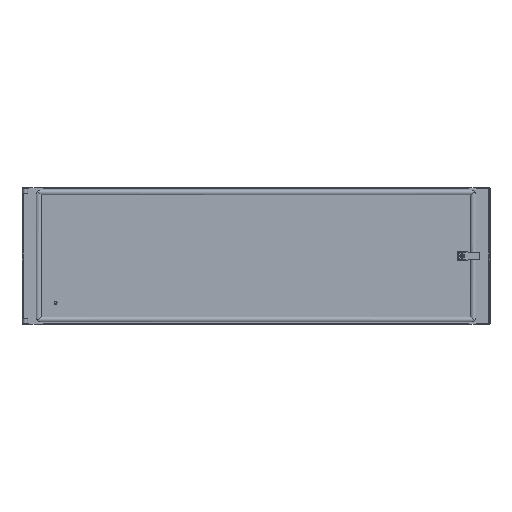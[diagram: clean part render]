
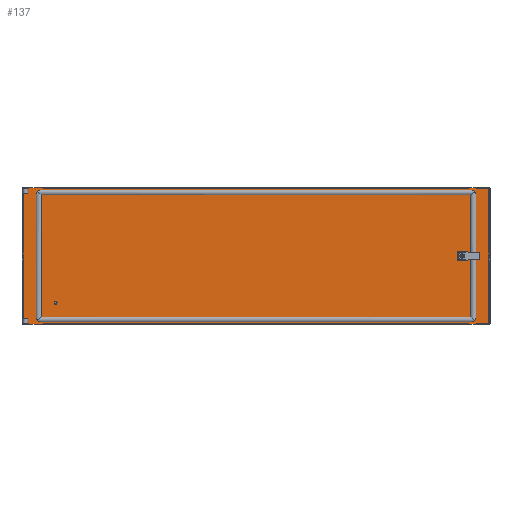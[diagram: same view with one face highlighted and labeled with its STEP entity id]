
A CAD part, top view. The second image highlights one B-rep face of the part: STEP entity #137.
In plain terms, the highlighted planar face has unit normal (0, 0, 1).
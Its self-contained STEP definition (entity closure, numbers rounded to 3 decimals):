
#137=ADVANCED_FACE('',(#702,#704,#706),#708,.T.);
#702=FACE_BOUND('',#703,.T.);
#703=EDGE_LOOP('',(#3435,#3436,#3437,#3438,#3439,#3440,#3441,#3442,#3443,#3444,#3445,
#3446,#3447,#3448,#3449,#3450,#3451,#3452,#3453,#3454,#3455,#3456,#3457,#3458,#3459,
#3460,#3461,#3462));
#704=FACE_BOUND('',#705,.T.);
#705=EDGE_LOOP('',(#3463));
#706=FACE_BOUND('',#707,.T.);
#707=EDGE_LOOP('',(#3464,#3465,#3466,#3467));
#708=PLANE('',#709);
#709=AXIS2_PLACEMENT_3D('',#710,#711,#712);
#710=CARTESIAN_POINT('',(0.,0.,2.));
#711=DIRECTION('',(0.,0.,1.));
#712=DIRECTION('',(1.,0.,0.));
#3435=ORIENTED_EDGE('',*,*,#5245,.F.);
#3436=ORIENTED_EDGE('',*,*,#5225,.F.);
#3437=ORIENTED_EDGE('',*,*,#5152,.F.);
#3438=ORIENTED_EDGE('',*,*,#5246,.F.);
#3439=ORIENTED_EDGE('',*,*,#5247,.F.);
#3440=ORIENTED_EDGE('',*,*,#5248,.F.);
#3441=ORIENTED_EDGE('',*,*,#5249,.F.);
#3442=ORIENTED_EDGE('',*,*,#5221,.F.);
#3443=ORIENTED_EDGE('',*,*,#5156,.F.);
#3444=ORIENTED_EDGE('',*,*,#5250,.F.);
#3445=ORIENTED_EDGE('',*,*,#5251,.F.);
#3446=ORIENTED_EDGE('',*,*,#5252,.F.);
#3447=ORIENTED_EDGE('',*,*,#5253,.F.);
#3448=ORIENTED_EDGE('',*,*,#5254,.F.);
#3449=ORIENTED_EDGE('',*,*,#5255,.F.);
#3450=ORIENTED_EDGE('',*,*,#5176,.F.);
#3451=ORIENTED_EDGE('',*,*,#5149,.F.);
#3452=ORIENTED_EDGE('',*,*,#5256,.T.);
#3453=ORIENTED_EDGE('',*,*,#5257,.T.);
#3454=ORIENTED_EDGE('',*,*,#5258,.T.);
#3455=ORIENTED_EDGE('',*,*,#5143,.F.);
#3456=ORIENTED_EDGE('',*,*,#5174,.F.);
#3457=ORIENTED_EDGE('',*,*,#5141,.F.);
#3458=ORIENTED_EDGE('',*,*,#5259,.T.);
#3459=ORIENTED_EDGE('',*,*,#5260,.T.);
#3460=ORIENTED_EDGE('',*,*,#5261,.T.);
#3461=ORIENTED_EDGE('',*,*,#5135,.F.);
#3462=ORIENTED_EDGE('',*,*,#5182,.F.);
#3463=ORIENTED_EDGE('',*,*,#5133,.F.);
#3464=ORIENTED_EDGE('',*,*,#5262,.F.);
#3465=ORIENTED_EDGE('',*,*,#5263,.F.);
#3466=ORIENTED_EDGE('',*,*,#5264,.F.);
#3467=ORIENTED_EDGE('',*,*,#5265,.F.);
#5133=EDGE_CURVE('',#6052,#6052,#6053,.T.);
#5135=EDGE_CURVE('',#6056,#6057,#6058,.T.);
#5141=EDGE_CURVE('',#6067,#6069,#6070,.T.);
#5143=EDGE_CURVE('',#6072,#6073,#6074,.T.);
#5149=EDGE_CURVE('',#6083,#6085,#6086,.T.);
#5152=EDGE_CURVE('',#6088,#6091,#6092,.T.);
#5156=EDGE_CURVE('',#6096,#6099,#6100,.T.);
#5174=EDGE_CURVE('',#6069,#6072,#6129,.T.);
#5176=EDGE_CURVE('',#6085,#6132,#6133,.T.);
#5182=EDGE_CURVE('',#6141,#6056,#6143,.T.);
#5221=EDGE_CURVE('',#6099,#6206,#6207,.T.);
#5225=EDGE_CURVE('',#6091,#6213,#6214,.T.);
#5245=EDGE_CURVE('',#6213,#6141,#6244,.T.);
#5246=EDGE_CURVE('',#6245,#6088,#6246,.T.);
#5247=EDGE_CURVE('',#6247,#6245,#6248,.T.);
#5248=EDGE_CURVE('',#6249,#6247,#6250,.T.);
#5249=EDGE_CURVE('',#6206,#6249,#6251,.T.);
#5250=EDGE_CURVE('',#6252,#6096,#6253,.T.);
#5251=EDGE_CURVE('',#6254,#6252,#6255,.T.);
#5252=EDGE_CURVE('',#6256,#6254,#6257,.T.);
#5253=EDGE_CURVE('',#6258,#6256,#6259,.T.);
#5254=EDGE_CURVE('',#6260,#6258,#6261,.T.);
#5255=EDGE_CURVE('',#6132,#6260,#6262,.T.);
#5256=EDGE_CURVE('',#6083,#6263,#6264,.T.);
#5257=EDGE_CURVE('',#6263,#6265,#6266,.T.);
#5258=EDGE_CURVE('',#6265,#6073,#6267,.T.);
#5259=EDGE_CURVE('',#6067,#6268,#6269,.T.);
#5260=EDGE_CURVE('',#6268,#6270,#6271,.T.);
#5261=EDGE_CURVE('',#6270,#6057,#6272,.T.);
#5262=EDGE_CURVE('',#6273,#6274,#6275,.T.);
#5263=EDGE_CURVE('',#6276,#6273,#6277,.T.);
#5264=EDGE_CURVE('',#6278,#6276,#6279,.T.);
#5265=EDGE_CURVE('',#6274,#6278,#6280,.T.);
#6052=VERTEX_POINT('',#7567);
#6053=CIRCLE('',#7568,0.5);
#6056=VERTEX_POINT('',#7577);
#6057=VERTEX_POINT('',#7578);
#6058=LINE('',#7579,#7580);
#6067=VERTEX_POINT('',#7598);
#6069=VERTEX_POINT('',#7602);
#6070=LINE('',#7603,#7604);
#6072=VERTEX_POINT('',#7609);
#6073=VERTEX_POINT('',#7610);
#6074=LINE('',#7611,#7612);
#6083=VERTEX_POINT('',#7630);
#6085=VERTEX_POINT('',#7634);
#6086=LINE('',#7635,#7636);
#6088=VERTEX_POINT('',#7641);
#6091=VERTEX_POINT('',#7646);
#6092=LINE('',#7647,#7648);
#6096=VERTEX_POINT('',#7657);
#6099=VERTEX_POINT('',#7662);
#6100=LINE('',#7663,#7664);
#6129=LINE('',#7762,#7763);
#6132=VERTEX_POINT('',#7770);
#6133=LINE('',#7771,#7772);
#6141=VERTEX_POINT('',#7803);
#6143=LINE('',#7820,#7821);
#6206=VERTEX_POINT('',#7979);
#6207=LINE('',#7980,#7981);
#6213=VERTEX_POINT('',#7996);
#6214=LINE('',#7997,#7998);
#6244=LINE('',#8080,#8081);
#6245=VERTEX_POINT('',#8083);
#6246=LINE('',#8084,#8085);
#6247=VERTEX_POINT('',#8087);
#6248=LINE('',#8088,#8089);
#6249=VERTEX_POINT('',#8091);
#6250=LINE('',#8092,#8093);
#6251=LINE('',#8095,#8096);
#6252=VERTEX_POINT('',#8098);
#6253=LINE('',#8099,#8100);
#6254=VERTEX_POINT('',#8102);
#6255=LINE('',#8103,#8104);
#6256=VERTEX_POINT('',#8106);
#6257=LINE('',#8107,#8108);
#6258=VERTEX_POINT('',#8110);
#6259=LINE('',#8111,#8112);
#6260=VERTEX_POINT('',#8114);
#6261=LINE('',#8115,#8116);
#6262=LINE('',#8118,#8119);
#6263=VERTEX_POINT('',#8121);
#6264=LINE('',#8122,#8123);
#6265=VERTEX_POINT('',#8125);
#6266=LINE('',#8126,#8127);
#6267=LINE('',#8129,#8130);
#6268=VERTEX_POINT('',#8132);
#6269=LINE('',#8133,#8134);
#6270=VERTEX_POINT('',#8136);
#6271=LINE('',#8137,#8138);
#6272=LINE('',#8140,#8141);
#6273=VERTEX_POINT('',#8143);
#6274=VERTEX_POINT('',#8144);
#6275=LINE('',#8145,#8146);
#6276=VERTEX_POINT('',#8148);
#6277=LINE('',#8149,#8150);
#6278=VERTEX_POINT('',#8152);
#6279=LINE('',#8153,#8154);
#6280=LINE('',#8156,#8157);
#7567=CARTESIAN_POINT('',(-507.7,-118.5,2.));
#7568=AXIS2_PLACEMENT_3D('',#7569,#7570,#7571);
#7569=CARTESIAN_POINT('',(-508.2,-118.5,2.));
#7570=DIRECTION('',(0.,0.,1.));
#7571=DIRECTION('',(-1.,0.,0.));
#7577=CARTESIAN_POINT('',(560.7,-170.1,2.));
#7578=CARTESIAN_POINT('',(558.7,-170.1,2.));
#7579=CARTESIAN_POINT('',(560.7,-170.1,2.));
#7580=VECTOR('',#7581,1.);
#7581=DIRECTION('',(-1.,0.,0.));
#7598=CARTESIAN_POINT('',(539.2,-170.1,2.));
#7602=CARTESIAN_POINT('',(537.2,-170.1,2.));
#7603=CARTESIAN_POINT('',(539.2,-170.1,2.));
#7604=VECTOR('',#7605,1.);
#7605=DIRECTION('',(-1.,0.,0.));
#7609=CARTESIAN_POINT('',(-536.2,-170.1,2.));
#7610=CARTESIAN_POINT('',(-538.2,-170.1,2.));
#7611=CARTESIAN_POINT('',(-536.2,-170.1,2.));
#7612=VECTOR('',#7613,1.);
#7613=DIRECTION('',(-1.,0.,0.));
#7630=CARTESIAN_POINT('',(-576.2,-170.1,2.));
#7634=CARTESIAN_POINT('',(-578.2,-170.1,2.));
#7635=CARTESIAN_POINT('',(-576.2,-170.1,2.));
#7636=VECTOR('',#7637,1.);
#7637=DIRECTION('',(-1.,0.,0.));
#7641=CARTESIAN_POINT('',(558.7,170.1,2.));
#7646=CARTESIAN_POINT('',(560.7,170.1,2.));
#7647=CARTESIAN_POINT('',(558.7,170.1,2.));
#7648=VECTOR('',#7649,1.);
#7649=DIRECTION('',(1.,0.,0.));
#7657=CARTESIAN_POINT('',(-538.2,170.1,2.));
#7662=CARTESIAN_POINT('',(-536.2,170.1,2.));
#7663=CARTESIAN_POINT('',(-538.2,170.1,2.));
#7664=VECTOR('',#7665,1.);
#7665=DIRECTION('',(1.,0.,0.));
#7762=CARTESIAN_POINT('',(537.2,-170.1,2.));
#7763=VECTOR('',#7764,1.);
#7764=DIRECTION('',(-1.,0.,0.));
#7770=CARTESIAN_POINT('',(-589.8,-170.1,2.));
#7771=CARTESIAN_POINT('',(-578.2,-170.1,2.));
#7772=VECTOR('',#7773,1.);
#7773=DIRECTION('',(-1.,0.,0.));
#7803=CARTESIAN_POINT('',(589.8,-170.1,2.));
#7820=CARTESIAN_POINT('',(589.8,-170.1,2.));
#7821=VECTOR('',#7822,1.);
#7822=DIRECTION('',(-1.,0.,0.));
#7979=CARTESIAN_POINT('',(537.2,170.1,2.));
#7980=CARTESIAN_POINT('',(-536.2,170.1,2.));
#7981=VECTOR('',#7982,1.);
#7982=DIRECTION('',(1.,0.,0.));
#7996=CARTESIAN_POINT('',(589.8,170.1,2.));
#7997=CARTESIAN_POINT('',(560.7,170.1,2.));
#7998=VECTOR('',#7999,1.);
#7999=DIRECTION('',(1.,0.,0.));
#8080=CARTESIAN_POINT('',(589.8,170.1,2.));
#8081=VECTOR('',#8082,1.);
#8082=DIRECTION('',(0.,-1.,0.));
#8083=CARTESIAN_POINT('',(558.7,173.5,2.));
#8084=CARTESIAN_POINT('',(558.7,173.5,2.));
#8085=VECTOR('',#8086,1.);
#8086=DIRECTION('',(0.,-1.,0.));
#8087=CARTESIAN_POINT('',(539.2,173.5,2.));
#8088=CARTESIAN_POINT('',(539.2,173.5,2.));
#8089=VECTOR('',#8090,1.);
#8090=DIRECTION('',(1.,0.,0.));
#8091=CARTESIAN_POINT('',(539.2,170.1,2.));
#8092=CARTESIAN_POINT('',(539.2,170.1,2.));
#8093=VECTOR('',#8094,1.);
#8094=DIRECTION('',(0.,1.,0.));
#8095=CARTESIAN_POINT('',(537.2,170.1,2.));
#8096=VECTOR('',#8097,1.);
#8097=DIRECTION('',(1.,0.,0.));
#8098=CARTESIAN_POINT('',(-538.2,173.5,2.));
#8099=CARTESIAN_POINT('',(-538.2,173.5,2.));
#8100=VECTOR('',#8101,1.);
#8101=DIRECTION('',(0.,-1.,0.));
#8102=CARTESIAN_POINT('',(-576.2,173.5,2.));
#8103=CARTESIAN_POINT('',(-576.2,173.5,2.));
#8104=VECTOR('',#8105,1.);
#8105=DIRECTION('',(1.,0.,0.));
#8106=CARTESIAN_POINT('',(-576.2,170.1,2.));
#8107=CARTESIAN_POINT('',(-576.2,170.1,2.));
#8108=VECTOR('',#8109,1.);
#8109=DIRECTION('',(0.,1.,0.));
#8110=CARTESIAN_POINT('',(-578.2,170.1,2.));
#8111=CARTESIAN_POINT('',(-578.2,170.1,2.));
#8112=VECTOR('',#8113,1.);
#8113=DIRECTION('',(1.,0.,0.));
#8114=CARTESIAN_POINT('',(-589.8,170.1,2.));
#8115=CARTESIAN_POINT('',(-589.8,170.1,2.));
#8116=VECTOR('',#8117,1.);
#8117=DIRECTION('',(1.,0.,0.));
#8118=CARTESIAN_POINT('',(-589.8,-170.1,2.));
#8119=VECTOR('',#8120,1.);
#8120=DIRECTION('',(0.,1.,0.));
#8121=CARTESIAN_POINT('',(-576.2,-173.5,2.));
#8122=CARTESIAN_POINT('',(-576.2,-170.1,2.));
#8123=VECTOR('',#8124,1.);
#8124=DIRECTION('',(0.,-1.,0.));
#8125=CARTESIAN_POINT('',(-538.2,-173.5,2.));
#8126=CARTESIAN_POINT('',(-576.2,-173.5,2.));
#8127=VECTOR('',#8128,1.);
#8128=DIRECTION('',(1.,0.,0.));
#8129=CARTESIAN_POINT('',(-538.2,-173.5,2.));
#8130=VECTOR('',#8131,1.);
#8131=DIRECTION('',(0.,1.,0.));
#8132=CARTESIAN_POINT('',(539.2,-173.5,2.));
#8133=CARTESIAN_POINT('',(539.2,-170.1,2.));
#8134=VECTOR('',#8135,1.);
#8135=DIRECTION('',(0.,-1.,0.));
#8136=CARTESIAN_POINT('',(558.7,-173.5,2.));
#8137=CARTESIAN_POINT('',(539.2,-173.5,2.));
#8138=VECTOR('',#8139,1.);
#8139=DIRECTION('',(1.,0.,0.));
#8140=CARTESIAN_POINT('',(558.7,-173.5,2.));
#8141=VECTOR('',#8142,1.);
#8142=DIRECTION('',(0.,1.,0.));
#8143=CARTESIAN_POINT('',(533.2,-10.6,2.));
#8144=CARTESIAN_POINT('',(533.2,10.6,2.));
#8145=CARTESIAN_POINT('',(533.2,-10.6,2.));
#8146=VECTOR('',#8147,1.);
#8147=DIRECTION('',(0.,1.,0.));
#8148=CARTESIAN_POINT('',(512.,-10.6,2.));
#8149=CARTESIAN_POINT('',(512.,-10.6,2.));
#8150=VECTOR('',#8151,1.);
#8151=DIRECTION('',(1.,0.,0.));
#8152=CARTESIAN_POINT('',(512.,10.6,2.));
#8153=CARTESIAN_POINT('',(512.,10.6,2.));
#8154=VECTOR('',#8155,1.);
#8155=DIRECTION('',(0.,-1.,0.));
#8156=CARTESIAN_POINT('',(533.2,10.6,2.));
#8157=VECTOR('',#8158,1.);
#8158=DIRECTION('',(-1.,0.,0.));
